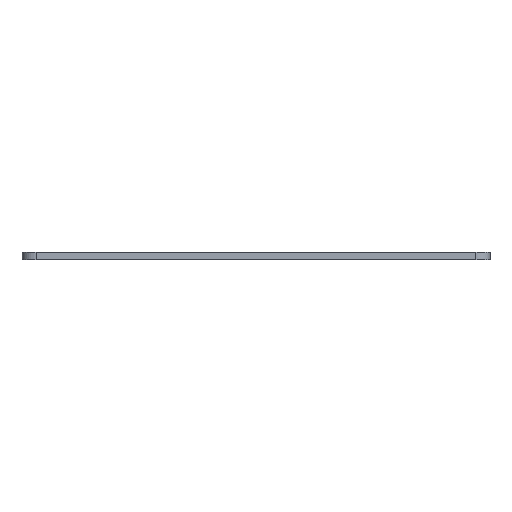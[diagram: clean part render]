
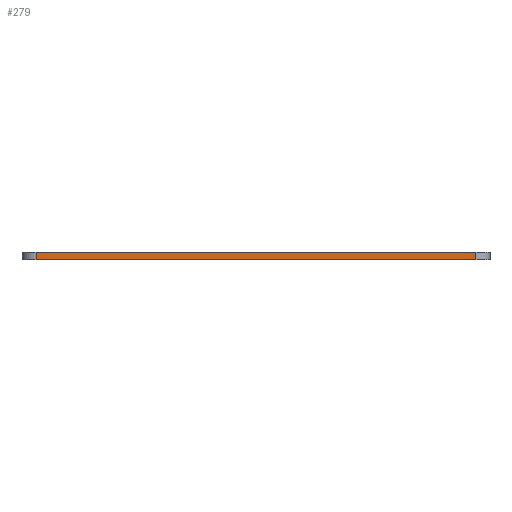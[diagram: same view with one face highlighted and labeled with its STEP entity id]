
A CAD part, front view. The second image highlights one B-rep face of the part: STEP entity #279.
In plain terms, the highlighted planar face has unit normal (0, -1, 0).
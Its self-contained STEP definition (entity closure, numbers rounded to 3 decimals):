
#49 = EDGE_CURVE('',#50,#52,#54,.T.);
#50 = VERTEX_POINT('',#51);
#51 = CARTESIAN_POINT('',(3.,0.,0.));
#52 = VERTEX_POINT('',#53);
#53 = CARTESIAN_POINT('',(3.,0.,1.621));
#54 = LINE('',#55,#56);
#55 = CARTESIAN_POINT('',(3.,0.,0.));
#56 = VECTOR('',#57,1.);
#57 = DIRECTION('',(0.,0.,1.));
#252 = VERTEX_POINT('',#253);
#253 = CARTESIAN_POINT('',(97.,0.,1.621));
#260 = EDGE_CURVE('',#261,#252,#263,.T.);
#261 = VERTEX_POINT('',#262);
#262 = CARTESIAN_POINT('',(97.,0.,0.));
#263 = LINE('',#264,#265);
#264 = CARTESIAN_POINT('',(97.,0.,0.));
#265 = VECTOR('',#266,1.);
#266 = DIRECTION('',(0.,0.,1.));
#279 = ADVANCED_FACE('',(#280),#296,.T.);
#280 = FACE_BOUND('',#281,.T.);
#281 = EDGE_LOOP('',(#282,#283,#289,#290));
#282 = ORIENTED_EDGE('',*,*,#260,.T.);
#283 = ORIENTED_EDGE('',*,*,#284,.T.);
#284 = EDGE_CURVE('',#252,#52,#285,.T.);
#285 = LINE('',#286,#287);
#286 = CARTESIAN_POINT('',(97.,0.,1.621));
#287 = VECTOR('',#288,1.);
#288 = DIRECTION('',(-1.,0.,0.));
#289 = ORIENTED_EDGE('',*,*,#49,.F.);
#290 = ORIENTED_EDGE('',*,*,#291,.F.);
#291 = EDGE_CURVE('',#261,#50,#292,.T.);
#292 = LINE('',#293,#294);
#293 = CARTESIAN_POINT('',(97.,0.,0.));
#294 = VECTOR('',#295,1.);
#295 = DIRECTION('',(-1.,0.,0.));
#296 = PLANE('',#297);
#297 = AXIS2_PLACEMENT_3D('',#298,#299,#300);
#298 = CARTESIAN_POINT('',(97.,0.,0.));
#299 = DIRECTION('',(0.,-1.,0.));
#300 = DIRECTION('',(-1.,0.,0.));
